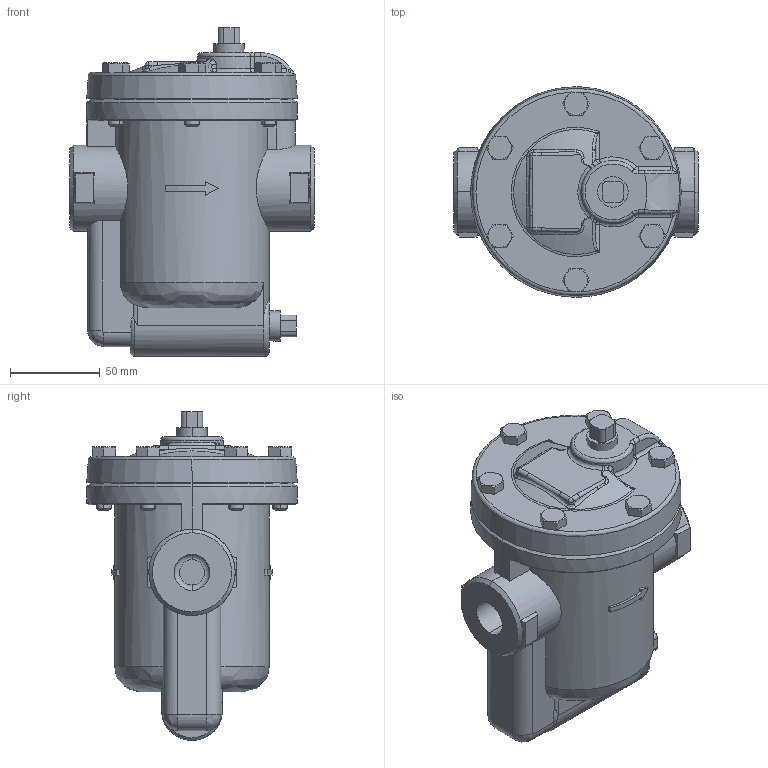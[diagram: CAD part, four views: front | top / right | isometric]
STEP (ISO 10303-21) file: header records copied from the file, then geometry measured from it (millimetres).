
FILE_DESCRIPTION( (''), '2;1');
FILE_NAME ('PC1027.940.1009-01-02 rev00 TB-20 20A_25292.stp','2025-08-01T11:06:41',(''),(''),'spGate 20.6.3 (****-****-****-****)','','');
FILE_SCHEMA (('AUTOMOTIVE_DESIGN'));
Length unit declared in the file: millimetre
Products named in the file (5): Assembly; TB-20 ふた; CP_''_JIS B 1180 呼び径六角ボルト''_17166; TB-20プラグ3_8(3D）; TB-20 20A 本体
Assembly tree (10 placements, depth 2):
  Assembly
    TB-20 ふた
    CP_''_JIS B 1180 呼び径六角ボルト''_17166  x6
    TB-20プラグ3_8(3D）  x2
    TB-20 20A 本体
Bounding box: 136 x 117 x 182.9 mm (x, y, z)
Volume: 1080627.2 mm3; surface area: 112924.3 mm2
Topology: 10 solids, 10 shells, 383 faces, 894 edges, 550 vertices
Faces by surface type: plane 147, bspline 143, cylinder 86, sphere 7
Entity records: 14859 total; most frequent: CARTESIAN_POINT 4508, ORIENTED_EDGE 1216, DIRECTION 1007, COLOUR_RGB 862, PRESENTATION_STYLE_ASSIGNMENT 862, STYLED_ITEM 862, EDGE_CURVE 608, DRAUGHTING_PRE_DEFINED_CURVE_FONT 608
